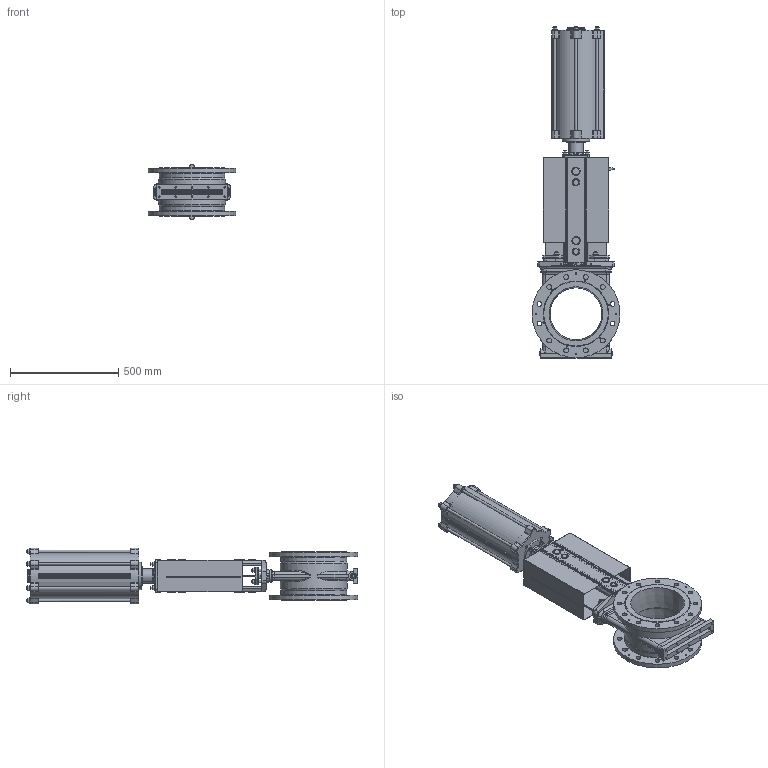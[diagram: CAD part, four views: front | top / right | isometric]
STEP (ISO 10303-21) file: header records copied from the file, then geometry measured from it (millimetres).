
FILE_DESCRIPTION(/* description */ ('','CAx-IF Rec.Pracs.---Representation and Presentation of Product Manufacturing Information (PMI)---4.0---2014-10-13'),/* implementation_level */ '2;1');
FILE_NAME(/* name */ 'F:\Emir\3D-block special\SLV\SLF-DN250-PN10-FRSC200-320_Shrinkwrap_1.stp',/* time_stamp */ '2018-09-04T15:10:58+02:00',/* author */ ('emimus'),/* organization */ (''),/* preprocessor_version */ 'ST-DEVELOPER v17.2',/* originating_system */ 'Autodesk Inventor 2019',/* authorisation */ '');
FILE_SCHEMA (('AP242_MANAGED_MODEL_BASED_3D_ENGINEERING_MIM_LF { 1 0 10303 442 1 1 4 }'));
Length unit declared in the file: millimetre
Products named in the file (1): SLF-DN250-PN10-FRSC200-320_Shrinkwrap_1
Bounding box: 406 x 1532.5 x 256 mm (x, y, z)
Volume: 19143855.1 mm3; surface area: 4318125.9 mm2
Topology: 3 solids, 3 shells, 3423 faces, 8768 edges, 5545 vertices
Faces by surface type: plane 1271, cylinder 779, bspline 577, cone 348, torus 320, sphere 128
Full cylindrical faces by diameter (mm): 3 x10, 4 x2, 4.2 x16, 4.5 x8, 4.917 x24, 6 x2, 6.4 x2, 6.647 x10, 7 x10, 8.88 x1, 9.5 x2, 10 x9, 10.106 x2, 12 x38, 13 x22, 13.835 x4, 14.63 x4, 15 x8, 18 x2, 18.631 x2, 19 x4, 20 x2, 20.5 x1, 22 x24, 23 x4, 24 x19, 24.117 x2, 25.8 x2, 27 x1, 28 x4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
Entity records: 119616 total; most frequent: CARTESIAN_POINT 38499, ORIENTED_EDGE 17424, DIRECTION 16554, EDGE_CURVE 8712, AXIS2_PLACEMENT_3D 6612, VERTEX_POINT 5545, EDGE_LOOP 3859, CIRCLE 3455
